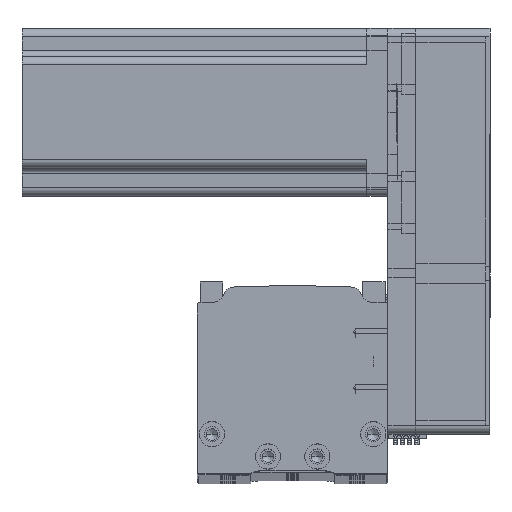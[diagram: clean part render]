
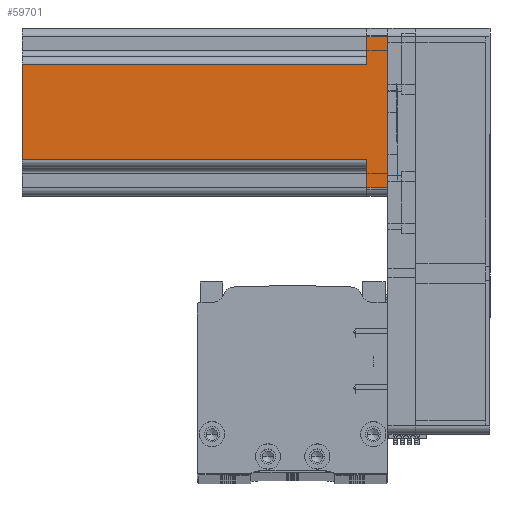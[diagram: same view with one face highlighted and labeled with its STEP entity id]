
A CAD part, top view. The second image highlights one B-rep face of the part: STEP entity #59701.
In plain terms, the highlighted planar face has unit normal (0, 0, 1) as drawn and (0, -1, 0) by its records, which use the part's own axes.
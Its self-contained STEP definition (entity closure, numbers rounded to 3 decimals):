
#313 = ORIENTED_EDGE ( 'NONE', *, *, #11891, .T. ) ;
#503 = DIRECTION ( 'NONE',  ( 1., 0., 0. ) ) ;
#1606 = DIRECTION ( 'NONE',  ( 0., 0., -1. ) ) ;
#2579 = EDGE_CURVE ( 'NONE', #50388, #22896, #33908, .T. ) ;
#2674 = VECTOR ( 'NONE', #503, 1000. ) ;
#3627 = EDGE_CURVE ( 'NONE', #26971, #31781, #51797, .T. ) ;
#5432 = LINE ( 'NONE', #65214, #17326 ) ;
#8055 = CARTESIAN_POINT ( 'NONE',  ( 30., -30., 0. ) ) ;
#9301 = VERTEX_POINT ( 'NONE', #62322 ) ;
#9966 = EDGE_CURVE ( 'NONE', #62216, #27180, #41787, .T. ) ;
#11665 = FACE_OUTER_BOUND ( 'NONE', #24470, .T. ) ;
#11891 = EDGE_CURVE ( 'NONE', #37305, #9301, #49943, .T. ) ;
#12854 = CARTESIAN_POINT ( 'NONE',  ( -17., -30., 7.5 ) ) ;
#14583 = VECTOR ( 'NONE', #22993, 1000. ) ;
#14931 = DIRECTION ( 'NONE',  ( 0., 1., 0. ) ) ;
#14950 = CARTESIAN_POINT ( 'NONE',  ( 27., -30., 130.7 ) ) ;
#16806 = LINE ( 'NONE', #8055, #60882 ) ;
#17326 = VECTOR ( 'NONE', #45213, 1000. ) ;
#17671 = DIRECTION ( 'NONE',  ( 0., 0., -1. ) ) ;
#19469 = CARTESIAN_POINT ( 'NONE',  ( -27., -30., 7.5 ) ) ;
#20265 = CARTESIAN_POINT ( 'NONE',  ( 27., -30., 0. ) ) ;
#21670 = LINE ( 'NONE', #58409, #14583 ) ;
#22044 = VECTOR ( 'NONE', #40068, 1000. ) ;
#22194 = CARTESIAN_POINT ( 'NONE',  ( 27., -30., 7.5 ) ) ;
#22896 = VERTEX_POINT ( 'NONE', #22194 ) ;
#22993 = DIRECTION ( 'NONE',  ( 1., 0., 0. ) ) ;
#23157 = VECTOR ( 'NONE', #1606, 1000. ) ;
#24470 = EDGE_LOOP ( 'NONE', ( #29633, #30855, #33942, #313, #53087, #44286, #58194, #53577 ) ) ;
#26845 = DIRECTION ( 'NONE',  ( 0., 0., 1. ) ) ;
#26971 = VERTEX_POINT ( 'NONE', #29478 ) ;
#27180 = VERTEX_POINT ( 'NONE', #30713 ) ;
#27411 = EDGE_CURVE ( 'NONE', #26971, #27180, #21670, .T. ) ;
#28016 = CARTESIAN_POINT ( 'NONE',  ( 17., -30., 7.5 ) ) ;
#29478 = CARTESIAN_POINT ( 'NONE',  ( -17., -30., 130.7 ) ) ;
#29633 = ORIENTED_EDGE ( 'NONE', *, *, #27411, .F. ) ;
#30713 = CARTESIAN_POINT ( 'NONE',  ( 17., -30., 130.7 ) ) ;
#30774 = CARTESIAN_POINT ( 'NONE',  ( -20., -30., 7.5 ) ) ;
#30855 = ORIENTED_EDGE ( 'NONE', *, *, #3627, .T. ) ;
#31781 = VERTEX_POINT ( 'NONE', #12854 ) ;
#31850 = CARTESIAN_POINT ( 'NONE',  ( -27., -30., 130.7 ) ) ;
#33908 = LINE ( 'NONE', #14950, #22044 ) ;
#33942 = ORIENTED_EDGE ( 'NONE', *, *, #39321, .F. ) ;
#37305 = VERTEX_POINT ( 'NONE', #19469 ) ;
#37365 = EDGE_CURVE ( 'NONE', #22896, #62216, #5432, .T. ) ;
#39321 = EDGE_CURVE ( 'NONE', #37305, #31781, #42971, .T. ) ;
#40022 = VECTOR ( 'NONE', #17671, 1000. ) ;
#40068 = DIRECTION ( 'NONE',  ( 0., 0., 1. ) ) ;
#40217 = VECTOR ( 'NONE', #26845, 1000. ) ;
#40378 = EDGE_CURVE ( 'NONE', #9301, #50388, #16806, .T. ) ;
#41787 = LINE ( 'NONE', #56991, #40217 ) ;
#42971 = LINE ( 'NONE', #30774, #2674 ) ;
#44286 = ORIENTED_EDGE ( 'NONE', *, *, #2579, .T. ) ;
#45099 = CARTESIAN_POINT ( 'NONE',  ( 30., -30., 130.7 ) ) ;
#45213 = DIRECTION ( 'NONE',  ( -1., 0., 0. ) ) ;
#49943 = LINE ( 'NONE', #31850, #23157 ) ;
#50183 = DIRECTION ( 'NONE',  ( -1., 0., 0. ) ) ;
#50388 = VERTEX_POINT ( 'NONE', #20265 ) ;
#51797 = LINE ( 'NONE', #52899, #40022 ) ;
#52899 = CARTESIAN_POINT ( 'NONE',  ( -17., -30., 130.7 ) ) ;
#53087 = ORIENTED_EDGE ( 'NONE', *, *, #40378, .T. ) ;
#53577 = ORIENTED_EDGE ( 'NONE', *, *, #9966, .T. ) ;
#55025 = PLANE ( 'NONE',  #60042 ) ;
#56991 = CARTESIAN_POINT ( 'NONE',  ( 17., -30., 130.7 ) ) ;
#58194 = ORIENTED_EDGE ( 'NONE', *, *, #37365, .T. ) ;
#58303 = DIRECTION ( 'NONE',  ( 1., 0., 0. ) ) ;
#58409 = CARTESIAN_POINT ( 'NONE',  ( 30., -30., 130.7 ) ) ;
#59701 = ADVANCED_FACE ( 'NONE', ( #11665 ), #55025, .F. ) ;
#60042 = AXIS2_PLACEMENT_3D ( 'NONE', #45099, #14931, #50183 ) ;
#60882 = VECTOR ( 'NONE', #58303, 1000. ) ;
#62216 = VERTEX_POINT ( 'NONE', #28016 ) ;
#62322 = CARTESIAN_POINT ( 'NONE',  ( -27., -30., 0. ) ) ;
#65214 = CARTESIAN_POINT ( 'NONE',  ( 20., -30., 7.5 ) ) ;
